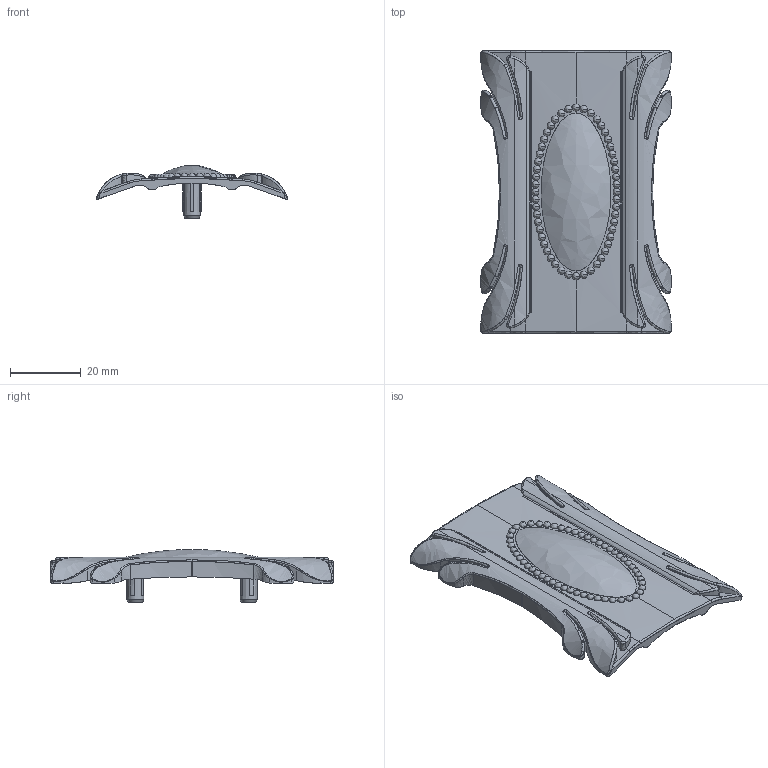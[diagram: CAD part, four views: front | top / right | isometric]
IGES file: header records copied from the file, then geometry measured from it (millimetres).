
Start section: C
Global section: file name: 8152.igs; native system: By Siemens PLM Incorporated; preprocessor: XPlus GENERIC/IGES 16.0.42; author: Author; organization: Title; date: 20231120.135335; units: millimetre
Bounding box: 54 x 80 x 14.91 mm (x, y, z)
Surface area: 10691.2 mm2 (no closed solid volume)
Topology: 0 solids, 0 shells, 625 faces, 3422 edges, 3370 vertices
Faces by surface type: bspline 625
